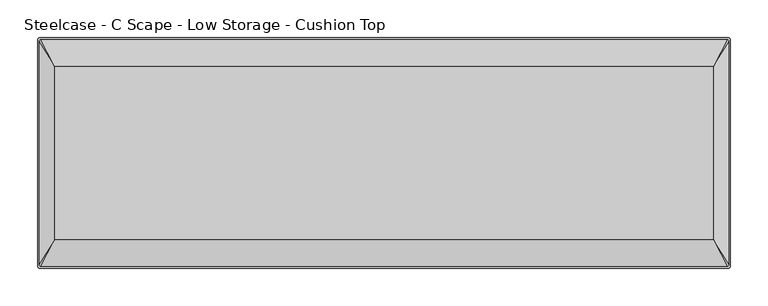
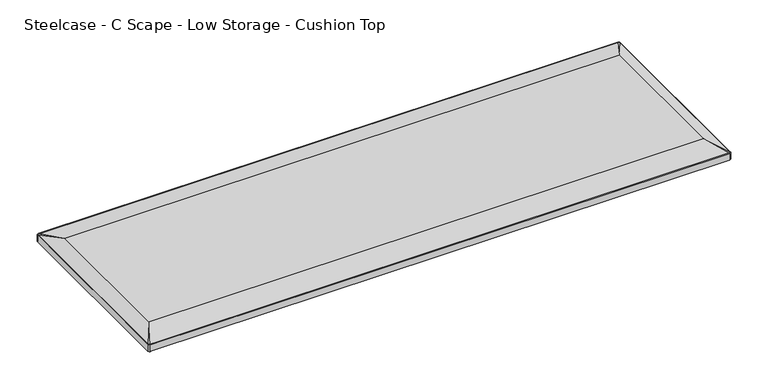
"""IFC4 building model written with IfcOpenShell, lengths in millimetres: furniture geometry, Steelcase - C Scape - Low Storage - Cushion Top : 12D x 36W."""

from ifc_helpers import new_model, si_unit, point, frame, frame_2d, origin, place, context, project, spatial, polyline, circle_curve, trimmed, segment, composite_curve, outline, extrude, source, transform, mapped, element, save
from ifc_brep_helpers import plane_surface, spline_surface, advanced_brep


def steelcase_c_scape_low_storage_cushion_top_89db92b3(model_context):
    return source(origin(), model_context, "Body", "SolidModel", [
        extrude(outline(composite_curve([segment(trimmed(circle_curve(frame_2d((911.86, 149.86)), 2.54), [point((911.86, 152.4))], [point((914.4, 149.86))], False, "CARTESIAN"), True, "CONTINUOUS"), segment(polyline([(914.4, 149.86), (914.4, -149.86)]), True, "CONTINUOUS"), segment(trimmed(circle_curve(frame_2d((911.86, -149.86)), 2.54), [point((914.4, -149.86))], [point((911.86, -152.4))], False, "CARTESIAN"), True, "CONTINUOUS"), segment(polyline([(911.86, -152.4), (2.54, -152.4)]), True, "CONTINUOUS"), segment(trimmed(circle_curve(frame_2d((2.54, -149.86)), 2.54), [point((2.54, -152.4))], [point((0.0, -149.86))], False, "CARTESIAN"), True, "CONTINUOUS"), segment(polyline([(0.0, -149.86), (0.0, 149.86)]), True, "CONTINUOUS"), segment(trimmed(circle_curve(frame_2d((2.54, 149.86)), 2.54), [point((0.0, 149.86))], [point((2.54, 152.4))], False, "CARTESIAN"), True, "CONTINUOUS"), segment(polyline([(2.54, 152.4), (911.86, 152.4)]), True, "CONTINUOUS")], self_intersect=False)), frame((0.0, 0.0, 599.44), z_axis=(0.0, 0.0, 1.0), x_axis=(1.0, 0.0, 0.0)), (0.0, 0.0, 1.0), 10.9220174),
        advanced_brep(
        [(911.86, 152.4, 610.3620174), (914.4, 149.86, 610.3620174), (914.4, -149.86, 610.3620174), (911.86, -152.4, 610.3620174), (2.54, -152.4, 610.3620174), (0.0, -149.86, 610.3620174), (0.0, 149.86, 610.3620174), (2.54, 152.4, 610.3620174), (892.302, 114.0206021, 618.4900097), (22.0725989, 114.0206021, 618.4900097), (22.0725989, -114.0206021, 618.4900097), (892.302, -114.0206021, 618.4900097)],
        [
            (0, 1, circle_curve(frame((911.86, 149.86, 610.3620174), z_axis=(0.0, 0.0, -1.0), x_axis=(1.0, 0.0, 0.0)), 2.54)),
            (1, 2),
            (2, 3, circle_curve(frame((911.86, -149.86, 610.3620174), z_axis=(0.0, 0.0, -1.0), x_axis=(1.0, 0.0, 0.0)), 2.54)),
            (3, 4),
            (4, 5, circle_curve(frame((2.54, -149.86, 610.3620174), z_axis=(0.0, 0.0, -1.0), x_axis=(1.0, 0.0, 0.0)), 2.54)),
            (5, 6),
            (6, 7, circle_curve(frame((2.54, 149.86, 610.3620174), z_axis=(0.0, 0.0, -1.0), x_axis=(1.0, 0.0, 0.0)), 2.54)),
            (7, 0),
            (8, 9),
            (9, 10),
            (10, 11),
            (11, 8),
            (8, 0),
            (7, 9),
            (9, 6),
            (5, 10),
            (10, 4),
            (3, 11),
            (11, 2),
            (1, 8),
        ],
        [
            plane_surface(frame((457.2, 0.0, 610.3620174), z_axis=(0.0, 0.0, -1.0), x_axis=(-1.0, 0.0, 0.0))),
            plane_surface(frame((457.1872995, 0.0, 618.4900097), z_axis=(0.0, 0.0, 1.0), x_axis=(-1.0, 0.0, 0.0))),
            plane_surface(frame((457.1872995, 114.0206021, 618.4900097), z_axis=(0.0, 0.20718484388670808, 0.9783018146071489), x_axis=(1.0, 0.0, 0.0))),
            plane_surface(frame((22.0725989, 0.0, 618.4900097), z_axis=(-0.3455549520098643, 0.0, 0.9383985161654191), x_axis=(0.0, 1.0, 0.0))),
            plane_surface(frame((457.1872995, -114.0206021, 618.4900097), z_axis=(0.0, -0.20718484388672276, 0.9783018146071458), x_axis=(-1.0, 0.0, 0.0))),
            plane_surface(frame((892.302, 0.0, 618.4900097), z_axis=(0.3452051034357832, 0.0, 0.9385272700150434), x_axis=(0.0, -1.0, 0.0))),
            spline_surface(2, 1, [[(892.302, 114.0206021, 618.4900097), (911.86, 152.4, 610.3620174)], [(892.302, 114.0206021, 618.4900097), (914.4, 152.40000000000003, 610.3620174)], [(892.302, 114.0206021, 618.4900097), (914.4, 149.86, 610.3620174)]], [3, 3], [2, 2], [0.0, 1.0], [0.0, 1.0], weights=[[1.0, 1.0], [0.7071067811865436, 0.7071067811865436], [1.0, 1.0]]),
            spline_surface(2, 1, [[(892.302, -114.0206021, 618.4900097), (914.4, -149.86, 610.3620174)], [(892.302, -114.0206021, 618.4900097), (914.4, -152.39999999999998, 610.3620174)], [(892.302, -114.0206021, 618.4900097), (911.86, -152.4, 610.3620174)]], [3, 3], [2, 2], [0.0, 1.0], [0.0, 1.0], weights=[[1.0, 1.0], [0.7071067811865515, 0.7071067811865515], [1.0, 1.0]]),
            spline_surface(2, 1, [[(22.0725989, -114.0206021, 618.4900097), (2.54, -152.4, 610.3620174)], [(22.0725989, -114.0206021, 618.4900097), (7.993605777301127e-15, -152.4, 610.3620174)], [(22.0725989, -114.0206021, 618.4900097), (0.0, -149.86, 610.3620174)]], [3, 3], [2, 2], [0.0, 1.0], [0.0, 1.0], weights=[[1.0, 1.0], [0.7071067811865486, 0.7071067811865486], [1.0, 1.0]]),
            spline_surface(2, 1, [[(22.0725989, 114.0206021, 618.4900097), (0.0, 149.86, 610.3620174)], [(22.0725989, 114.0206021, 618.4900097), (-8.43769498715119e-15, 152.4, 610.3620174)], [(22.0725989, 114.0206021, 618.4900097), (2.54, 152.4, 610.3620174)]], [3, 3], [2, 2], [0.0, 1.0], [0.0, 1.0], weights=[[1.0, 1.0], [0.7071067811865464, 0.7071067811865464], [1.0, 1.0]]),
        ],
        [
            (0, [[1, 2, 3, 4, 5, 6, 7, 8]]),
            (1, [[9, 10, 11, 12]]),
            (2, [[-9, 13, -8, 14]]),
            (3, [[-10, 15, -6, 16]]),
            (4, [[-11, 17, -4, 18]]),
            (5, [[-12, 19, -2, 20]]),
            (6, [[-1, -13, -20]]),
            (7, [[-3, -19, -18]]),
            (8, [[-5, -17, -16]]),
            (9, [[-7, -15, -14]]),
        ],
    ),
    ])


if __name__ == "__main__":
    model = new_model("IFC4")
    model_context = context("Model", 3, world=origin())
    ifc_project = project(units=[si_unit("LENGTHUNIT", "METRE", prefix="MILLI")], contexts=[model_context])
    site = spatial("IfcSite", under=ifc_project)
    building = spatial("IfcBuilding", under=site)
    placement = place(None, origin())
    steelcase_c_scape_low_storage_cushion_top_shape = steelcase_c_scape_low_storage_cushion_top_89db92b3(model_context)
    element("IfcFurniture", 1, ObjectType="Steelcase - C Scape - Low Storage - Cushion Top : 12D x 36W", at=placement, inside=building, context=model_context, shape_type="MappedRepresentation", body=[
        mapped(steelcase_c_scape_low_storage_cushion_top_shape, transform((0.0, 0.0, 0.0), x_axis=(1.0, 0.0, 0.0), y_axis=(0.0, 1.0, 0.0), z_axis=(0.0, 0.0, 1.0))),
    ])
    save(model, "model.ifc")
